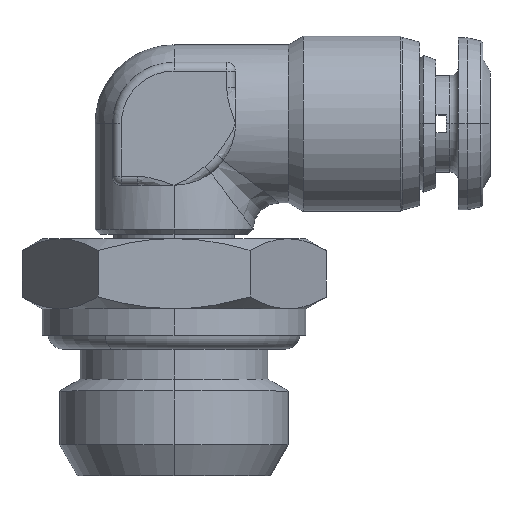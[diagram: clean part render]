
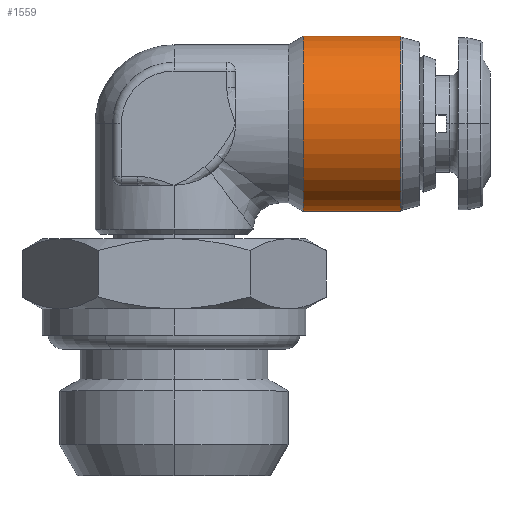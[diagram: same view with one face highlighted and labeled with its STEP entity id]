
A CAD part, top view. The second image highlights one B-rep face of the part: STEP entity #1559.
In plain terms, the highlighted cylindrical face has radius 5 mm (diameter 10 mm), a partial arc.
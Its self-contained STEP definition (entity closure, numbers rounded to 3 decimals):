
#241 = CIRCLE ( 'NONE', #662, 5. ) ;
#257 = CIRCLE ( 'NONE', #671, 5. ) ;
#284 = LINE ( 'NONE', #3079, #286 ) ;
#285 = LINE ( 'NONE', #3105, #288 ) ;
#286 = VECTOR ( 'NONE', #3096, 1000. ) ;
#288 = VECTOR ( 'NONE', #3107, 1000. ) ;
#662 = AXIS2_PLACEMENT_3D ( 'NONE', #2963, #2964, #2965 ) ;
#671 = AXIS2_PLACEMENT_3D ( 'NONE', #2998, #2999, #3000 ) ;
#784 = EDGE_LOOP ( 'NONE', ( #6101, #6102, #6103, #6104 ) ) ;
#1559 = ADVANCED_FACE ( 'NONE', ( #2511 ), #2519, .T. ) ;
#2448 = CARTESIAN_POINT ( 'NONE',  ( 15.7, 15.7, 0. ) ) ;
#2449 = DIRECTION ( 'NONE',  ( 1., 0., 0. ) ) ;
#2511 = FACE_OUTER_BOUND ( 'NONE', #784, .T. ) ;
#2519 = CYLINDRICAL_SURFACE ( 'NONE', #3876, 5. ) ;
#2580 = DIRECTION ( 'NONE',  ( 0., 1., 0. ) ) ;
#2963 = CARTESIAN_POINT ( 'NONE',  ( 12.918, 15.7, 0. ) ) ;
#2964 = DIRECTION ( 'NONE',  ( -1., 0., 0. ) ) ;
#2965 = DIRECTION ( 'NONE',  ( 0., -1., 0. ) ) ;
#2998 = CARTESIAN_POINT ( 'NONE',  ( 7.366, 15.7, 0. ) ) ;
#2999 = DIRECTION ( 'NONE',  ( 1., 0., 0. ) ) ;
#3000 = DIRECTION ( 'NONE',  ( 0., 1., 0. ) ) ;
#3079 = CARTESIAN_POINT ( 'NONE',  ( 15.7, 10.7, 0. ) ) ;
#3096 = DIRECTION ( 'NONE',  ( 1., 0., 0. ) ) ;
#3105 = CARTESIAN_POINT ( 'NONE',  ( 15.7, 20.7, 0. ) ) ;
#3107 = DIRECTION ( 'NONE',  ( 1., 0., 0. ) ) ;
#3876 = AXIS2_PLACEMENT_3D ( 'NONE', #2448, #2449, #2580 ) ;
#4299 = VERTEX_POINT ( 'NONE', #6530 ) ;
#4300 = VERTEX_POINT ( 'NONE', #6531 ) ;
#4312 = VERTEX_POINT ( 'NONE', #6543 ) ;
#4313 = VERTEX_POINT ( 'NONE', #6544 ) ;
#6101 = ORIENTED_EDGE ( 'NONE', *, *, #6391, .T. ) ;
#6102 = ORIENTED_EDGE ( 'NONE', *, *, #6417, .T. ) ;
#6103 = ORIENTED_EDGE ( 'NONE', *, *, #6378, .T. ) ;
#6104 = ORIENTED_EDGE ( 'NONE', *, *, #6418, .F. ) ;
#6378 = EDGE_CURVE ( 'NONE', #4312, #4313, #241, .T. ) ;
#6391 = EDGE_CURVE ( 'NONE', #4300, #4299, #257, .T. ) ;
#6417 = EDGE_CURVE ( 'NONE', #4299, #4312, #284, .T. ) ;
#6418 = EDGE_CURVE ( 'NONE', #4300, #4313, #285, .T. ) ;
#6530 = CARTESIAN_POINT ( 'NONE',  ( 7.366, 10.7, 0. ) ) ;
#6531 = CARTESIAN_POINT ( 'NONE',  ( 7.366, 20.7, 0. ) ) ;
#6543 = CARTESIAN_POINT ( 'NONE',  ( 12.918, 10.7, 0. ) ) ;
#6544 = CARTESIAN_POINT ( 'NONE',  ( 12.918, 20.7, 0. ) ) ;
